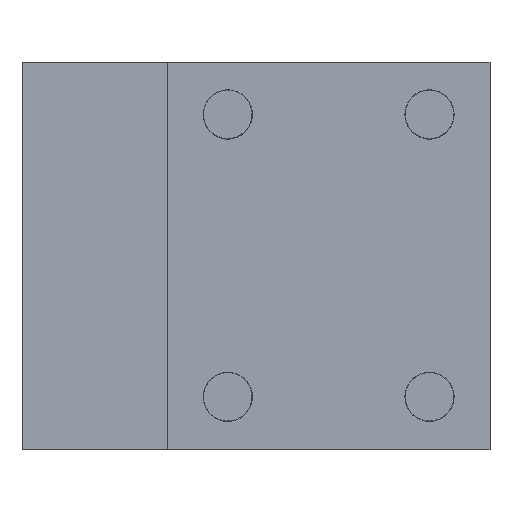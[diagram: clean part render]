
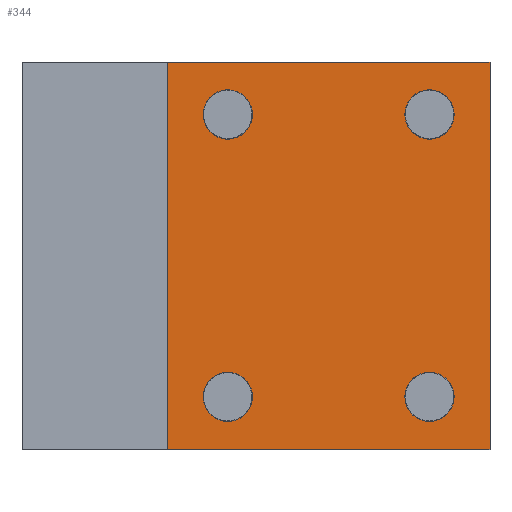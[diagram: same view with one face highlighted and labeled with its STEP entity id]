
A CAD part, top view. The second image highlights one B-rep face of the part: STEP entity #344.
In plain terms, the highlighted planar face has unit normal (0, 0, 1).
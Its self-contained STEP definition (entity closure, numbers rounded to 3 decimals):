
#344=ADVANCED_FACE('Pad.6',(#796,#797,#798,#799,#800),#801,.T.);
#796=FACE_OUTER_BOUND('',#1392,.T.);
#797=FACE_BOUND('',#1393,.T.);
#798=FACE_BOUND('',#1394,.T.);
#799=FACE_BOUND('',#1395,.T.);
#800=FACE_BOUND('',#1396,.T.);
#801=PLANE('',#1397);
#1392=EDGE_LOOP('',(#2301,#2302,#2303,#2304));
#1393=EDGE_LOOP('',(#2305,#2306,#2307,#2308));
#1394=EDGE_LOOP('',(#2309,#2310,#2311,#2312));
#1395=EDGE_LOOP('',(#2313,#2314,#2315,#2316));
#1396=EDGE_LOOP('',(#2317,#2318,#2319,#2320));
#1397=AXIS2_PLACEMENT_3D('',#2321,#2322,#2323);
#2301=ORIENTED_EDGE('',*,*,#3697,.T.);
#2302=ORIENTED_EDGE('',*,*,#3720,.F.);
#2303=ORIENTED_EDGE('',*,*,#3670,.F.);
#2304=ORIENTED_EDGE('',*,*,#3718,.F.);
#2305=ORIENTED_EDGE('',*,*,#3504,.F.);
#2306=ORIENTED_EDGE('',*,*,#3507,.F.);
#2307=ORIENTED_EDGE('',*,*,#3721,.F.);
#2308=ORIENTED_EDGE('',*,*,#3722,.F.);
#2309=ORIENTED_EDGE('',*,*,#3481,.F.);
#2310=ORIENTED_EDGE('',*,*,#3484,.F.);
#2311=ORIENTED_EDGE('',*,*,#3723,.F.);
#2312=ORIENTED_EDGE('',*,*,#3724,.F.);
#2313=ORIENTED_EDGE('',*,*,#3581,.F.);
#2314=ORIENTED_EDGE('',*,*,#3584,.F.);
#2315=ORIENTED_EDGE('',*,*,#3616,.F.);
#2316=ORIENTED_EDGE('',*,*,#3618,.F.);
#2317=ORIENTED_EDGE('',*,*,#3550,.F.);
#2318=ORIENTED_EDGE('',*,*,#3553,.F.);
#2319=ORIENTED_EDGE('',*,*,#3725,.F.);
#2320=ORIENTED_EDGE('',*,*,#3726,.F.);
#2321=CARTESIAN_POINT('',(-20.0,0.0,26.0));
#2322=DIRECTION('',(0.0,0.0,1.0));
#2323=DIRECTION('',(1.0,0.0,0.0));
#3481=EDGE_CURVE('',#4153,#4149,#4155,.T.);
#3484=EDGE_CURVE('',#4157,#4153,#4160,.T.);
#3504=EDGE_CURVE('',#4192,#4188,#4194,.T.);
#3507=EDGE_CURVE('',#4196,#4192,#4199,.T.);
#3550=EDGE_CURVE('',#4269,#4265,#4271,.T.);
#3553=EDGE_CURVE('',#4273,#4269,#4276,.T.);
#3581=EDGE_CURVE('',#4320,#4316,#4322,.T.);
#3584=EDGE_CURVE('',#4324,#4320,#4327,.T.);
#3616=EDGE_CURVE('',#4376,#4324,#4378,.T.);
#3618=EDGE_CURVE('',#4316,#4376,#4380,.T.);
#3670=EDGE_CURVE('',#4458,#4460,#4461,.T.);
#3697=EDGE_CURVE('',#4503,#4501,#4504,.T.);
#3718=EDGE_CURVE('',#4503,#4458,#4533,.T.);
#3720=EDGE_CURVE('',#4460,#4501,#4535,.F.);
#3721=EDGE_CURVE('',#4536,#4196,#4537,.T.);
#3722=EDGE_CURVE('',#4188,#4536,#4538,.T.);
#3723=EDGE_CURVE('',#4539,#4157,#4540,.T.);
#3724=EDGE_CURVE('',#4149,#4539,#4541,.T.);
#3725=EDGE_CURVE('',#4542,#4273,#4543,.T.);
#3726=EDGE_CURVE('',#4265,#4542,#4544,.T.);
#4149=VERTEX_POINT('',#5166);
#4153=VERTEX_POINT('',#5171);
#4155=CIRCLE('',#5174,3.05);
#4157=VERTEX_POINT('',#5176);
#4160=CIRCLE('',#5180,3.05);
#4188=VERTEX_POINT('',#5213);
#4192=VERTEX_POINT('',#5218);
#4194=CIRCLE('',#5221,3.05);
#4196=VERTEX_POINT('',#5223);
#4199=CIRCLE('',#5227,3.05);
#4265=VERTEX_POINT('',#5319);
#4269=VERTEX_POINT('',#5324);
#4271=CIRCLE('',#5327,3.05);
#4273=VERTEX_POINT('',#5329);
#4276=CIRCLE('',#5333,3.05);
#4316=VERTEX_POINT('',#5393);
#4320=VERTEX_POINT('',#5398);
#4322=CIRCLE('',#5401,3.05);
#4324=VERTEX_POINT('',#5403);
#4327=CIRCLE('',#5407,3.05);
#4376=VERTEX_POINT('',#5569);
#4378=CIRCLE('',#5572,3.05);
#4380=CIRCLE('',#5574,3.05);
#4458=VERTEX_POINT('',#5672);
#4460=VERTEX_POINT('',#5675);
#4461=LINE('',#5676,#5677);
#4501=VERTEX_POINT('',#5766);
#4503=VERTEX_POINT('',#5769);
#4504=LINE('',#5770,#5771);
#4533=LINE('',#5827,#5828);
#4535=LINE('',#5830,#5831);
#4536=VERTEX_POINT('',#5832);
#4537=CIRCLE('',#5833,3.05);
#4538=CIRCLE('',#5834,3.05);
#4539=VERTEX_POINT('',#5835);
#4540=CIRCLE('',#5836,3.05);
#4541=CIRCLE('',#5837,3.05);
#4542=VERTEX_POINT('',#5838);
#4543=CIRCLE('',#5839,3.05);
#4544=CIRCLE('',#5840,3.05);
#5166=CARTESIAN_POINT('',(33.55,17.5,26.0));
#5171=CARTESIAN_POINT('',(27.823,16.038,26.0));
#5174=AXIS2_PLACEMENT_3D('',#6743,#6744,#6745);
#5176=CARTESIAN_POINT('',(27.45,17.5,26.0));
#5180=AXIS2_PLACEMENT_3D('',#6747,#6748,#6749);
#5213=CARTESIAN_POINT('',(33.55,-17.5,26.0));
#5218=CARTESIAN_POINT('',(27.823,-18.962,26.0));
#5221=AXIS2_PLACEMENT_3D('',#6781,#6782,#6783);
#5223=CARTESIAN_POINT('',(27.45,-17.5,26.0));
#5227=AXIS2_PLACEMENT_3D('',#6785,#6786,#6787);
#5319=CARTESIAN_POINT('',(8.55,-17.5,26.0));
#5324=CARTESIAN_POINT('',(2.823,-18.962,26.0));
#5327=AXIS2_PLACEMENT_3D('',#6856,#6857,#6858);
#5329=CARTESIAN_POINT('',(2.45,-17.5,26.0));
#5333=AXIS2_PLACEMENT_3D('',#6860,#6861,#6862);
#5393=CARTESIAN_POINT('',(8.55,17.5,26.0));
#5398=CARTESIAN_POINT('',(2.823,16.038,26.0));
#5401=AXIS2_PLACEMENT_3D('',#6901,#6902,#6903);
#5403=CARTESIAN_POINT('',(2.45,17.5,26.0));
#5407=AXIS2_PLACEMENT_3D('',#6905,#6906,#6907);
#5569=CARTESIAN_POINT('',(8.177,18.962,26.0));
#5572=AXIS2_PLACEMENT_3D('',#6944,#6945,#6946);
#5574=AXIS2_PLACEMENT_3D('',#6947,#6948,#6949);
#5672=CARTESIAN_POINT('',(-2.0,24.0,26.0));
#5675=CARTESIAN_POINT('',(38.0,24.0,26.0));
#5676=CARTESIAN_POINT('',(18.0,24.0,26.0));
#5677=VECTOR('',#7037,1.0);
#5766=CARTESIAN_POINT('',(38.0,-24.0,26.0));
#5769=CARTESIAN_POINT('',(-2.0,-24.0,26.0));
#5770=CARTESIAN_POINT('',(18.0,-24.0,26.0));
#5771=VECTOR('',#7063,1.0);
#5827=CARTESIAN_POINT('',(-2.0,0.0,26.0));
#5828=VECTOR('',#7083,1.0);
#5830=CARTESIAN_POINT('',(38.0,0.0,26.0));
#5831=VECTOR('',#7084,1.0);
#5832=CARTESIAN_POINT('',(33.177,-16.038,26.0));
#5833=AXIS2_PLACEMENT_3D('',#7085,#7086,#7087);
#5834=AXIS2_PLACEMENT_3D('',#7088,#7089,#7090);
#5835=CARTESIAN_POINT('',(33.177,18.962,26.0));
#5836=AXIS2_PLACEMENT_3D('',#7091,#7092,#7093);
#5837=AXIS2_PLACEMENT_3D('',#7094,#7095,#7096);
#5838=CARTESIAN_POINT('',(8.177,-16.038,26.0));
#5839=AXIS2_PLACEMENT_3D('',#7097,#7098,#7099);
#5840=AXIS2_PLACEMENT_3D('',#7100,#7101,#7102);
#6743=CARTESIAN_POINT('',(30.5,17.5,26.0));
#6744=DIRECTION('',(0.0,0.0,1.0));
#6745=DIRECTION('',(1.0,0.0,0.0));
#6747=CARTESIAN_POINT('',(30.5,17.5,26.0));
#6748=DIRECTION('',(0.0,0.0,1.0));
#6749=DIRECTION('',(1.0,0.0,0.0));
#6781=CARTESIAN_POINT('',(30.5,-17.5,26.0));
#6782=DIRECTION('',(0.0,0.0,1.0));
#6783=DIRECTION('',(1.0,0.0,0.0));
#6785=CARTESIAN_POINT('',(30.5,-17.5,26.0));
#6786=DIRECTION('',(0.0,0.0,1.0));
#6787=DIRECTION('',(1.0,0.0,0.0));
#6856=CARTESIAN_POINT('',(5.5,-17.5,26.0));
#6857=DIRECTION('',(0.0,0.0,1.0));
#6858=DIRECTION('',(1.0,0.0,0.0));
#6860=CARTESIAN_POINT('',(5.5,-17.5,26.0));
#6861=DIRECTION('',(0.0,0.0,1.0));
#6862=DIRECTION('',(1.0,0.0,0.0));
#6901=CARTESIAN_POINT('',(5.5,17.5,26.0));
#6902=DIRECTION('',(0.0,0.0,1.0));
#6903=DIRECTION('',(1.0,0.0,0.0));
#6905=CARTESIAN_POINT('',(5.5,17.5,26.0));
#6906=DIRECTION('',(0.0,0.0,1.0));
#6907=DIRECTION('',(1.0,0.0,0.0));
#6944=CARTESIAN_POINT('',(5.5,17.5,26.0));
#6945=DIRECTION('',(0.0,0.0,1.0));
#6946=DIRECTION('',(1.0,0.0,0.0));
#6947=CARTESIAN_POINT('',(5.5,17.5,26.0));
#6948=DIRECTION('',(0.0,0.0,1.0));
#6949=DIRECTION('',(1.0,0.0,0.0));
#7037=DIRECTION('',(1.0,0.0,0.0));
#7063=DIRECTION('',(1.0,0.0,0.0));
#7083=DIRECTION('',(0.0,1.0,0.0));
#7084=DIRECTION('',(0.0,1.0,0.0));
#7085=CARTESIAN_POINT('',(30.5,-17.5,26.0));
#7086=DIRECTION('',(0.0,0.0,1.0));
#7087=DIRECTION('',(1.0,0.0,0.0));
#7088=CARTESIAN_POINT('',(30.5,-17.5,26.0));
#7089=DIRECTION('',(0.0,0.0,1.0));
#7090=DIRECTION('',(1.0,0.0,0.0));
#7091=CARTESIAN_POINT('',(30.5,17.5,26.0));
#7092=DIRECTION('',(0.0,0.0,1.0));
#7093=DIRECTION('',(1.0,0.0,0.0));
#7094=CARTESIAN_POINT('',(30.5,17.5,26.0));
#7095=DIRECTION('',(0.0,0.0,1.0));
#7096=DIRECTION('',(1.0,0.0,0.0));
#7097=CARTESIAN_POINT('',(5.5,-17.5,26.0));
#7098=DIRECTION('',(0.0,0.0,1.0));
#7099=DIRECTION('',(1.0,0.0,0.0));
#7100=CARTESIAN_POINT('',(5.5,-17.5,26.0));
#7101=DIRECTION('',(0.0,0.0,1.0));
#7102=DIRECTION('',(1.0,0.0,0.0));
